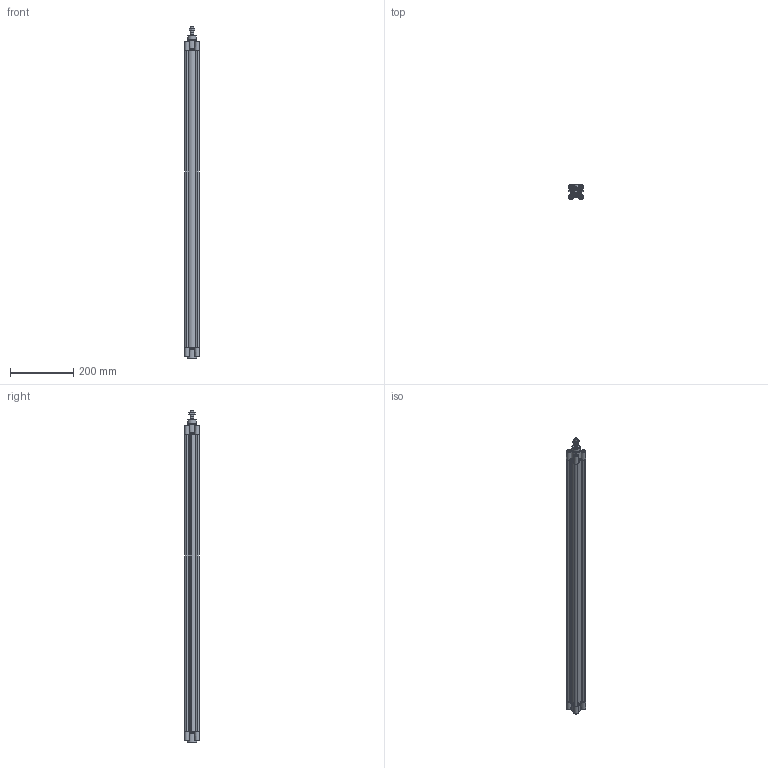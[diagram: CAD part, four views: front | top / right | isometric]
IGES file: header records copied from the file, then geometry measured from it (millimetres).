
Global section: file name: No Iges File Name specified; native system: Autodesk Inventor 2012; preprocessor: AutoDesk Inventor Iges Exporter R2012; author: pilonfr1; date: 20120128.095110; units: millimetre
Bounding box: 47 x 47 x 1046.5 mm (x, y, z)
Volume: 756427.4 mm3; surface area: 514317.4 mm2
Topology: 5 solids, 5 shells, 316 faces, 788 edges, 522 vertices
Faces by surface type: plane 200, cylinder 54, revolution 39, cone 22, torus 1
Full cylindrical faces by diameter (mm): 8.8 x1, 10 x9, 11.5 x1, 12 x1, 26 x1, 30 x2, 32 x3
